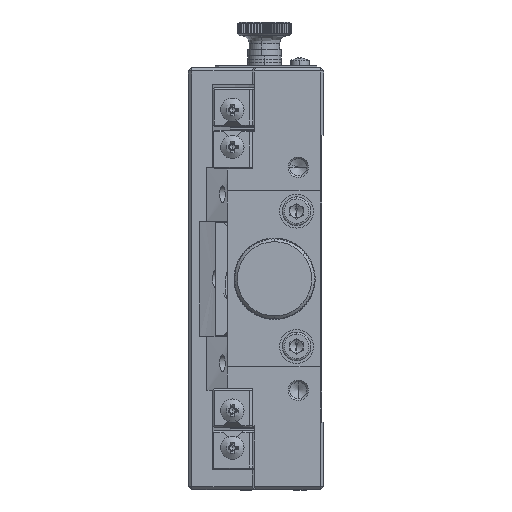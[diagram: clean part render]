
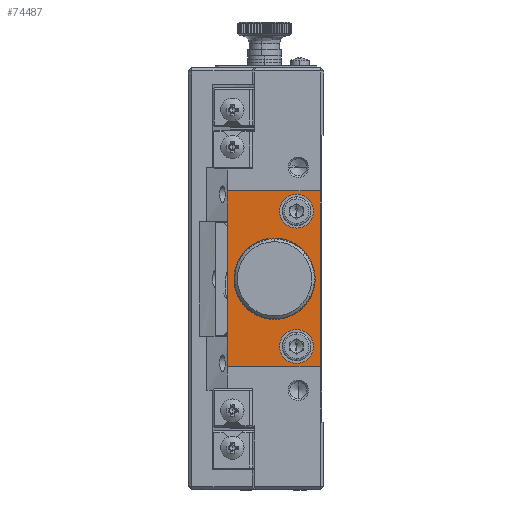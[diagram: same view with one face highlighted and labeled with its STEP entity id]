
A CAD part, left-side view. The second image highlights one B-rep face of the part: STEP entity #74487.
In plain terms, the highlighted planar face has unit normal (-1, 0, 0) as drawn and (0, 0, 1) by its records, which use the part's own axes.
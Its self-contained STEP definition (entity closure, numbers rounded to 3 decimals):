
#1015 = CARTESIAN_POINT ( 'NONE',  ( 0., 14., 9. ) ) ;
#1296 = CARTESIAN_POINT ( 'NONE',  ( -26., 0., 9. ) ) ;
#1332 = ORIENTED_EDGE ( 'NONE', *, *, #25657, .F. ) ;
#2923 = CARTESIAN_POINT ( 'NONE',  ( 0., 0., 9. ) ) ;
#5096 = VECTOR ( 'NONE', #37783, 1000. ) ;
#6021 = EDGE_LOOP ( 'NONE', ( #1332, #80694 ) ) ;
#8455 = VERTEX_POINT ( 'NONE', #15328 ) ;
#9738 = FACE_BOUND ( 'NONE', #73353, .T. ) ;
#10954 = CARTESIAN_POINT ( 'NONE',  ( -26., 28., 9. ) ) ;
#14268 = VERTEX_POINT ( 'NONE', #65753 ) ;
#15084 = VERTEX_POINT ( 'NONE', #51235 ) ;
#15328 = CARTESIAN_POINT ( 'NONE',  ( 15., 7.5, 9. ) ) ;
#16065 = CARTESIAN_POINT ( 'NONE',  ( -15., 7.5, 9. ) ) ;
#16370 = VERTEX_POINT ( 'NONE', #16065 ) ;
#16757 = CARTESIAN_POINT ( 'NONE',  ( 0., 0.5, 9. ) ) ;
#17065 = VERTEX_POINT ( 'NONE', #31093 ) ;
#17953 = AXIS2_PLACEMENT_3D ( 'NONE', #27327, #72754, #59634 ) ;
#20630 = EDGE_CURVE ( 'NONE', #15084, #25425, #76005, .T. ) ;
#21198 = FACE_OUTER_BOUND ( 'NONE', #67638, .T. ) ;
#21437 = AXIS2_PLACEMENT_3D ( 'NONE', #48947, #74851, #47794 ) ;
#22490 = VERTEX_POINT ( 'NONE', #10954 ) ;
#25425 = VERTEX_POINT ( 'NONE', #51508 ) ;
#25657 = EDGE_CURVE ( 'NONE', #16370, #57530, #64088, .T. ) ;
#27327 = CARTESIAN_POINT ( 'NONE',  ( -20., 7.5, 9. ) ) ;
#28402 = DIRECTION ( 'NONE',  ( 0., -1., 0. ) ) ;
#29675 = CIRCLE ( 'NONE', #39864, 11. ) ;
#31055 = VERTEX_POINT ( 'NONE', #85217 ) ;
#31093 = CARTESIAN_POINT ( 'NONE',  ( -11., 14., 9. ) ) ;
#31398 = CARTESIAN_POINT ( 'NONE',  ( -20., 7.5, 9. ) ) ;
#32701 = CIRCLE ( 'NONE', #42440, 5. ) ;
#33434 = LINE ( 'NONE', #1296, #51112 ) ;
#34230 = VECTOR ( 'NONE', #83051, 1000. ) ;
#37541 = DIRECTION ( 'NONE',  ( 1., 0., 0. ) ) ;
#37783 = DIRECTION ( 'NONE',  ( 1., 0., 0. ) ) ;
#38204 = CIRCLE ( 'NONE', #21437, 5. ) ;
#38825 = CIRCLE ( 'NONE', #48929, 5. ) ;
#39864 = AXIS2_PLACEMENT_3D ( 'NONE', #1015, #54300, #54585 ) ;
#40081 = EDGE_CURVE ( 'NONE', #86357, #8455, #38204, .T. ) ;
#42440 = AXIS2_PLACEMENT_3D ( 'NONE', #31398, #77377, #37541 ) ;
#42751 = EDGE_CURVE ( 'NONE', #57530, #16370, #32701, .T. ) ;
#43111 = EDGE_CURVE ( 'NONE', #31055, #17065, #59725, .T. ) ;
#43150 = DIRECTION ( 'NONE',  ( 1., 0., 0. ) ) ;
#43592 = EDGE_LOOP ( 'NONE', ( #70134, #69124 ) ) ;
#44002 = CARTESIAN_POINT ( 'NONE',  ( 0., 28., 9. ) ) ;
#44640 = LINE ( 'NONE', #44002, #34230 ) ;
#47115 = CARTESIAN_POINT ( 'NONE',  ( 25., 7.5, 9. ) ) ;
#47794 = DIRECTION ( 'NONE',  ( 1., 0., 0. ) ) ;
#48481 = ORIENTED_EDGE ( 'NONE', *, *, #63552, .F. ) ;
#48929 = AXIS2_PLACEMENT_3D ( 'NONE', #62966, #76036, #43150 ) ;
#48947 = CARTESIAN_POINT ( 'NONE',  ( 20., 7.5, 9. ) ) ;
#49019 = EDGE_CURVE ( 'NONE', #22490, #25425, #44640, .T. ) ;
#49855 = VECTOR ( 'NONE', #65084, 1000. ) ;
#50407 = ORIENTED_EDGE ( 'NONE', *, *, #20630, .T. ) ;
#51112 = VECTOR ( 'NONE', #28402, 1000. ) ;
#51235 = CARTESIAN_POINT ( 'NONE',  ( 26., 0.5, 9. ) ) ;
#51508 = CARTESIAN_POINT ( 'NONE',  ( 26., 28., 9. ) ) ;
#52255 = CARTESIAN_POINT ( 'NONE',  ( 26., 0., 9. ) ) ;
#54300 = DIRECTION ( 'NONE',  ( 0., 0., 1. ) ) ;
#54585 = DIRECTION ( 'NONE',  ( 1., 0., 0. ) ) ;
#55962 = DIRECTION ( 'NONE',  ( 0., 0., -1. ) ) ;
#57530 = VERTEX_POINT ( 'NONE', #69215 ) ;
#59634 = DIRECTION ( 'NONE',  ( 1., 0., 0. ) ) ;
#59725 = CIRCLE ( 'NONE', #79783, 11. ) ;
#59792 = FACE_BOUND ( 'NONE', #43592, .T. ) ;
#60498 = AXIS2_PLACEMENT_3D ( 'NONE', #2923, #55962, #69045 ) ;
#60824 = FACE_BOUND ( 'NONE', #6021, .T. ) ;
#62966 = CARTESIAN_POINT ( 'NONE',  ( 20., 7.5, 9. ) ) ;
#63525 = DIRECTION ( 'NONE',  ( 0., 0., 1. ) ) ;
#63552 = EDGE_CURVE ( 'NONE', #8455, #86357, #38825, .T. ) ;
#64088 = CIRCLE ( 'NONE', #17953, 5. ) ;
#65084 = DIRECTION ( 'NONE',  ( 0., 1., 0. ) ) ;
#65753 = CARTESIAN_POINT ( 'NONE',  ( -26., 0.5, 9. ) ) ;
#66698 = LINE ( 'NONE', #16757, #5096 ) ;
#67638 = EDGE_LOOP ( 'NONE', ( #80603, #50407, #71447, #79513 ) ) ;
#67724 = EDGE_CURVE ( 'NONE', #22490, #14268, #33434, .T. ) ;
#69045 = DIRECTION ( 'NONE',  ( -1., 0., 0. ) ) ;
#69124 = ORIENTED_EDGE ( 'NONE', *, *, #73860, .F. ) ;
#69215 = CARTESIAN_POINT ( 'NONE',  ( -25., 7.5, 9. ) ) ;
#69314 = PLANE ( 'NONE',  #60498 ) ;
#69324 = ORIENTED_EDGE ( 'NONE', *, *, #40081, .F. ) ;
#69617 = DIRECTION ( 'NONE',  ( 1., 0., 0. ) ) ;
#70134 = ORIENTED_EDGE ( 'NONE', *, *, #43111, .F. ) ;
#71447 = ORIENTED_EDGE ( 'NONE', *, *, #49019, .F. ) ;
#72754 = DIRECTION ( 'NONE',  ( 0., 0., 1. ) ) ;
#73353 = EDGE_LOOP ( 'NONE', ( #69324, #48481 ) ) ;
#73860 = EDGE_CURVE ( 'NONE', #17065, #31055, #29675, .T. ) ;
#74487 = ADVANCED_FACE ( 'NONE', ( #21198, #59792, #9738, #60824 ), #69314, .F. ) ;
#74851 = DIRECTION ( 'NONE',  ( 0., 0., 1. ) ) ;
#76005 = LINE ( 'NONE', #52255, #49855 ) ;
#76036 = DIRECTION ( 'NONE',  ( 0., 0., 1. ) ) ;
#77377 = DIRECTION ( 'NONE',  ( 0., 0., 1. ) ) ;
#79513 = ORIENTED_EDGE ( 'NONE', *, *, #67724, .T. ) ;
#79783 = AXIS2_PLACEMENT_3D ( 'NONE', #83044, #63525, #69617 ) ;
#80603 = ORIENTED_EDGE ( 'NONE', *, *, #80894, .T. ) ;
#80694 = ORIENTED_EDGE ( 'NONE', *, *, #42751, .F. ) ;
#80894 = EDGE_CURVE ( 'NONE', #14268, #15084, #66698, .T. ) ;
#83044 = CARTESIAN_POINT ( 'NONE',  ( 0., 14., 9. ) ) ;
#83051 = DIRECTION ( 'NONE',  ( 1., 0., 0. ) ) ;
#85217 = CARTESIAN_POINT ( 'NONE',  ( 11., 14., 9. ) ) ;
#86357 = VERTEX_POINT ( 'NONE', #47115 ) ;
